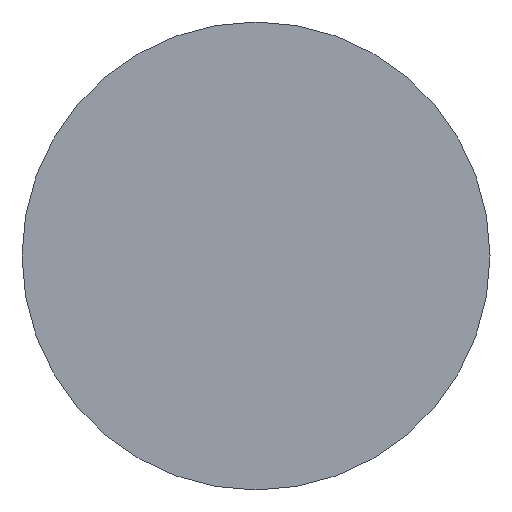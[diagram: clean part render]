
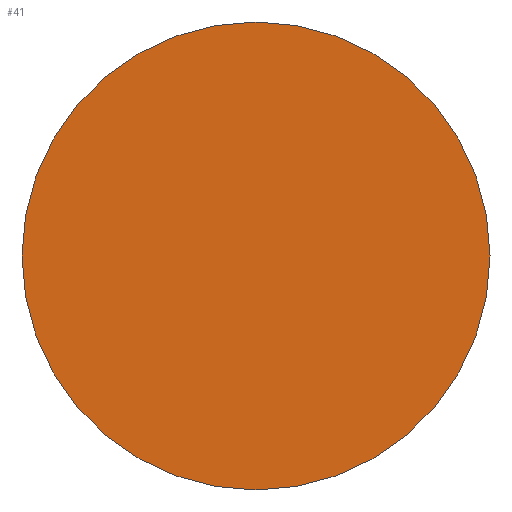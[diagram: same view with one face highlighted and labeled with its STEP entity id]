
A CAD part, top view. The second image highlights one B-rep face of the part: STEP entity #41.
In plain terms, the highlighted planar face has unit normal (0, 0, 1).
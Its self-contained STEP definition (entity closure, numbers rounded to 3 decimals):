
#41=ADVANCED_FACE('',(#85),#86,.T.);
#85=FACE_OUTER_BOUND('',#135,.T.);
#86=PLANE('',#136);
#135=EDGE_LOOP('',(#197));
#136=AXIS2_PLACEMENT_3D('',#198,#199,#200);
#197=ORIENTED_EDGE('',*,*,#250,.F.);
#198=CARTESIAN_POINT('',(-33.5,0.0,0.0));
#199=DIRECTION('',(0.0,0.,1.0));
#200=DIRECTION('',(0.0,-1.0,0.));
#250=EDGE_CURVE('',#274,#274,#275,.T.);
#274=VERTEX_POINT('',#305);
#275=CIRCLE('',#306,33.5);
#305=CARTESIAN_POINT('',(0.0,33.5,0.));
#306=AXIS2_PLACEMENT_3D('',#335,#336,#337);
#335=CARTESIAN_POINT('',(0.0,0.0,0.0));
#336=DIRECTION('',(-0.0,0.,-1.0));
#337=DIRECTION('',(0.0,1.0,0.));
